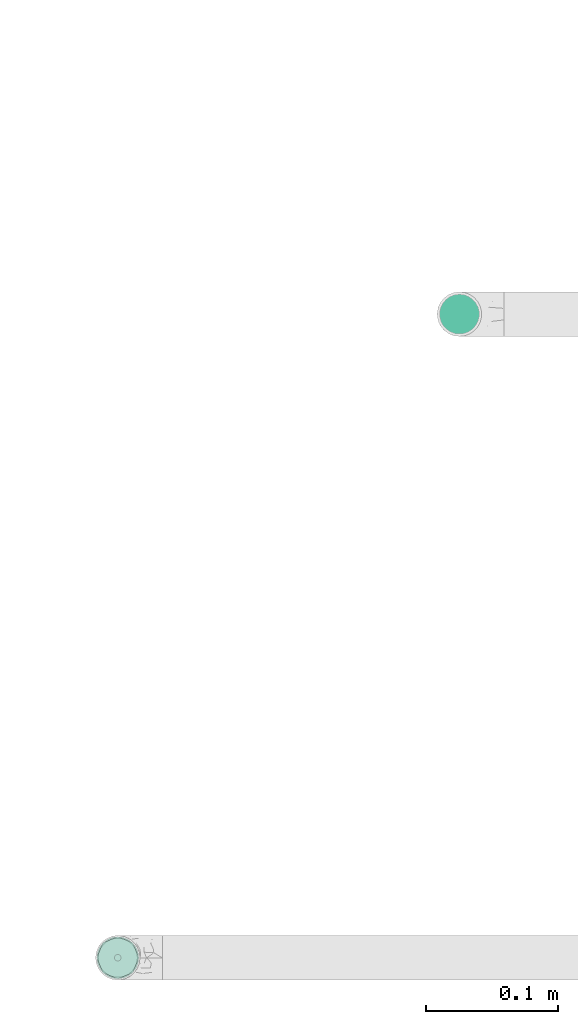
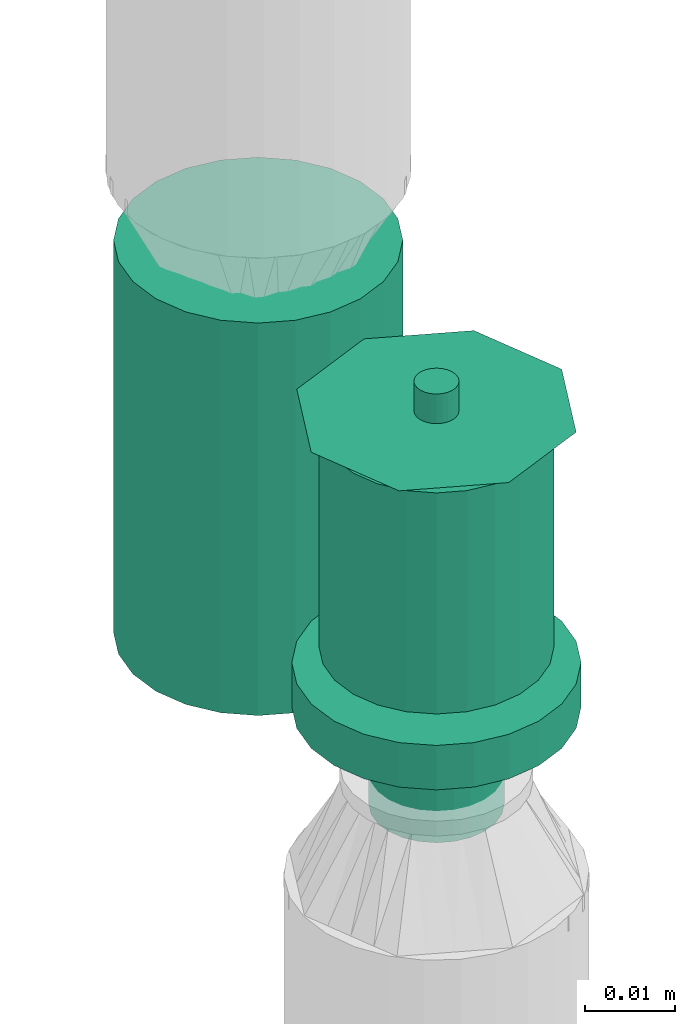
# One storey, part 26 of 157: 2 flow terminals.
"""IFC2X3 building model written with IfcOpenShell, lengths in millimetres."""

from ifc_helpers import new_model, entity, si_unit, converted_unit, derived_unit, direction, frame, origin_with_axes, place, context, subcontext, project, spatial, open_shell, surface_model, source, transform, mapped, type_object, element, save


model = new_model("IFC2X3")

# Units and contexts
model_context = context("Model", 3, precision=0.01, world=frame((0.0, 4.29681676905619e-09, 0.0)), true_north=direction((4.01073788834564e-13, 1.0)))
plan_context = context("Plan", 3, precision=0.01, world=frame((0.0, 4.29681676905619e-09, 0.0)), true_north=direction((4.01073788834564e-13, 1.0)))
body_context = subcontext(model_context, "Body", "Model", "MODEL_VIEW")
ifc_project = project(units=[converted_unit("PLANEANGLEUNIT", "DEGREE", entity("IfcPositiveLengthMeasure", 0.0174532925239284), si_unit("PLANEANGLEUNIT", "RADIAN"), dimensions=[0, 0, 0, 0, 0, 0, 0]), si_unit("AREAUNIT", "SQUARE_METRE"), si_unit("LENGTHUNIT", "METRE", prefix="MILLI"), si_unit("MASSUNIT", "GRAM", prefix="KILO"), si_unit("POWERUNIT", "WATT"), si_unit("PRESSUREUNIT", "PASCAL"), si_unit("FORCEUNIT", "NEWTON", prefix="KILO"), si_unit("ELECTRICCURRENTUNIT", "AMPERE"), si_unit("THERMODYNAMICTEMPERATUREUNIT", "DEGREE_CELSIUS"), si_unit("TIMEUNIT", "SECOND"), si_unit("VOLUMEUNIT", "CUBIC_METRE"), derived_unit("LINEARVELOCITYUNIT", [(si_unit("LENGTHUNIT", "METRE"), 1), (si_unit("TIMEUNIT", "SECOND"), -1)]), derived_unit("VOLUMETRICFLOWRATEUNIT", [(si_unit("VOLUMEUNIT", "CUBIC_METRE"), 1), (si_unit("TIMEUNIT", "SECOND"), -1)]), derived_unit("THERMALTRANSMITTANCEUNIT", [(si_unit("POWERUNIT", "WATT"), 1), (si_unit("THERMODYNAMICTEMPERATUREUNIT", "KELVIN"), -1), (si_unit("AREAUNIT", "SQUARE_METRE"), -1)])], contexts=[model_context, plan_context])

# Site, building, storey
site_placement = place(None, frame((0.0, -4.29681676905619e-09, 0.0), z_axis=(0.0, 0.0, 1.0), x_axis=(1.0, 0.0, 0.0)))
site = spatial("IfcSite", under=ifc_project, at=site_placement, CompositionType="ELEMENT")
building_placement = place(site_placement, frame((0.0, 4.29681676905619e-09, 0.0), z_axis=(0.0, 0.0, 1.0), x_axis=(1.0, 0.0, 0.0)))
building = spatial("IfcBuilding", under=site, at=building_placement, Name="mc-building", CompositionType="ELEMENT")
storey_placement = place(building_placement, frame((0.0, 0.0, 204000.0), z_axis=(0.0, 0.0, 1.0), x_axis=(1.0, 0.0, 0.0)))
storey = spatial("IfcBuildingStorey", under=building, at=storey_placement, Name="Nivå D", CompositionType="ELEMENT", Elevation=204000.0)

# Flow terminals
fire_suppression_terminal_type_1 = type_object("IfcFireSuppressionTerminalType", Name="SP-15-K80-68DGR-STD-HIMLING", PredefinedType="NOTDEFINED")
shared_shape_1 = source(origin_with_axes(), body_context, "Body", "SurfaceModel", [
    surface_model("IfcShellBasedSurfaceModel", [(4.1411, -15.45481, 53.0), (8.0, -13.85641, 53.0), (11.31371, -11.31371, 53.0), (-8.0, -13.85641, 53.0), (15.45481, -4.1411, 53.0), (16.0, 0.0, 53.0), (13.85641, -8.0, 53.0), (0.0, -16.0, 53.0), (-4.1411, -15.45481, 53.0), (-13.85641, -8.0, 53.0), (-11.31371, -11.31371, 53.0), (-15.45481, -4.1411, 53.0), (15.45481, 4.1411, 53.0), (13.85641, 8.0, 53.0), (11.31371, 11.31371, 53.0), (-4.1411, 15.45481, 53.0), (8.0, 13.85641, 53.0), (4.1411, 15.45481, 53.0), (0.0, 16.0, 53.0), (-13.85641, 8.0, 53.0), (-15.45481, 4.1411, 53.0), (-16.0, 0.0, 53.0), (-11.31371, 11.31371, 53.0), (-8.0, 13.85641, 53.0), (0.0, 16.0, 0.0), (4.1411, 15.45481, 0.0), (8.0, 13.85641, 0.0), (-4.1411, 15.45481, 0.0), (11.31371, 11.31371, 0.0), (13.85641, 8.0, 0.0), (15.45481, 4.1411, 0.0), (-15.45481, -4.1411, 0.0), (-11.31371, 11.31371, 0.0), (-8.0, 13.85641, 0.0), (-13.85641, 8.0, 0.0), (-15.45481, 4.1411, 0.0), (-16.0, 0.0, 0.0), (4.1411, -15.45481, 0.0), (16.0, 0.0, 0.0), (15.45481, -4.1411, 0.0), (13.85641, -8.0, 0.0), (11.31371, -11.31371, 0.0), (8.0, -13.85641, 0.0), (-8.0, -13.85641, 0.0), (-13.85641, -8.0, 0.0), (-11.31371, -11.31371, 0.0), (0.0, -16.0, 0.0), (-4.1411, -15.45481, 0.0)], [open_shell([[[0, 1, 2]], [[3, 0, 2]], [[4, 5, 2]], [[4, 2, 6]], [[3, 2, 5]], [[7, 3, 8]], [[7, 0, 3]], [[3, 9, 10]], [[9, 3, 11]], [[5, 11, 3]], [[5, 12, 11]], [[12, 13, 14]], [[15, 12, 14]], [[16, 17, 18]], [[14, 16, 15]], [[18, 15, 16]], [[11, 19, 20]], [[21, 11, 20]], [[22, 15, 23]], [[15, 22, 19]], [[19, 11, 15]], [[11, 12, 15]], [[24, 25, 26]], [[27, 24, 26]], [[28, 29, 30]], [[27, 26, 28]], [[27, 28, 31]], [[27, 32, 33]], [[32, 27, 34]], [[34, 31, 35]], [[31, 34, 27]], [[35, 31, 36]], [[28, 30, 31]], [[37, 38, 39]], [[37, 39, 40]], [[41, 42, 37]], [[41, 37, 40]], [[38, 37, 43]], [[44, 43, 45]], [[43, 44, 31]], [[43, 46, 47]], [[43, 31, 38]], [[37, 46, 43]], [[38, 31, 30]], [[11, 31, 44]], [[45, 9, 44]], [[3, 43, 47]], [[45, 43, 10]], [[8, 47, 46]], [[31, 21, 36]], [[31, 11, 21]], [[44, 9, 11]], [[45, 10, 9]], [[3, 10, 43]], [[47, 8, 3]], [[46, 7, 8]], [[0, 37, 42]], [[41, 1, 42]], [[6, 40, 39]], [[41, 40, 2]], [[4, 39, 38]], [[37, 0, 7]], [[42, 1, 0]], [[41, 2, 1]], [[40, 6, 2]], [[4, 6, 39]], [[38, 5, 4]], [[37, 7, 46]], [[12, 38, 30]], [[13, 30, 29]], [[16, 26, 25]], [[17, 25, 24]], [[30, 13, 12]], [[12, 5, 38]], [[28, 14, 13]], [[28, 26, 14]], [[14, 26, 16]], [[25, 17, 16]], [[28, 13, 29]], [[24, 18, 17]], [[15, 27, 33]], [[32, 23, 33]], [[19, 34, 35]], [[32, 34, 22]], [[20, 35, 36]], [[27, 15, 18]], [[33, 23, 15]], [[32, 22, 23]], [[34, 19, 22]], [[20, 19, 35]], [[36, 21, 20]], [[27, 18, 24]]])]),
])
flow_terminal_1_placement = place(storey_placement, frame((531100.0, 402200.0, 2700.0), z_axis=(0.0, 0.0, -1.0), x_axis=(1.0, 0.0, 0.0)))
element("IfcFlowTerminal", 1, at=flow_terminal_1_placement, inside=storey, type_object=fire_suppression_terminal_type_1, Name="SP-15-K80-68DGR-STD-HIMLING", context=body_context, shape_type="MappedRepresentation", body=[
    mapped(shared_shape_1, transform((0.0, 0.0, 0.0), scale=1.0)),
])
fire_suppression_terminal_type_2 = type_object("IfcFireSuppressionTerminalType", Name="68DGR-STD-STÅENDE", PredefinedType="NOTDEFINED")
shared_shape_2 = source(origin_with_axes(), body_context, "Body", "SurfaceModel", [
    surface_model("IfcShellBasedSurfaceModel", [(3.36465, -12.55704, 51.0), (6.5, -11.25833, 51.0), (9.19239, -9.19239, 51.0), (12.55704, -3.36465, 51.0), (-11.25833, -6.5, 51.0), (11.25833, -6.5, 51.0), (-13.0, 0.0, 51.0), (0.0, -13.0, 51.0), (-6.5, -11.25833, 51.0), (-3.36465, -12.55704, 51.0), (-9.19239, -9.19239, 51.0), (-12.55704, -3.36465, 51.0), (13.0, 0.0, 51.0), (12.55704, 3.36465, 51.0), (11.25833, 6.5, 51.0), (9.19239, 9.19239, 51.0), (6.5, 11.25833, 51.0), (3.36465, 12.55704, 51.0), (0.0, 13.0, 51.0), (-3.36465, 12.55704, 51.0), (-12.55704, 3.36465, 51.0), (-9.19239, 9.19239, 51.0), (-11.25833, 6.5, 51.0), (-6.5, 11.25833, 51.0), (0.0, 13.0, 21.14766), (3.36465, 12.55704, 21.14766), (6.5, 11.25833, 21.14766), (-3.36465, 12.55704, 21.14766), (9.19239, 9.19239, 21.14766), (11.25833, 6.5, 21.14766), (12.55704, 3.36465, 21.14766), (-12.55704, 3.36465, 21.14766), (-11.25833, -6.5, 21.14766), (-9.19239, 9.19239, 21.14766), (-6.5, 11.25833, 21.14766), (-11.25833, 6.5, 21.14766), (-13.0, 0.0, 21.14766), (12.55704, -3.36465, 21.14766), (9.19239, -9.19239, 21.14766), (11.25833, -6.5, 21.14766), (6.5, -11.25833, 21.14766), (3.36465, -12.55704, 21.14766), (-6.5, -11.25833, 21.14766), (-9.19239, -9.19239, 21.14766), (-12.55704, -3.36465, 21.14766), (0.0, -13.0, 21.14766), (-3.36465, -12.55704, 21.14766), (13.0, 0.0, 21.14766), (7.24444, -1.94114, 0.1), (1.94114, -7.24444, 0.1), (3.75, -6.49519, 0.1), (5.3033, -5.3033, 0.1), (-5.3033, -5.3033, 0.1), (6.49519, -3.75, 0.1), (5.3033, 5.3033, 0.1), (0.0, -7.5, 0.1), (-3.75, -6.49519, 0.1), (-1.94114, -7.24444, 0.1), (-7.24444, -1.94114, 0.1), (-6.49519, -3.75, 0.1), (-7.24444, 1.94114, 0.1), (7.5, 0.0, 0.1), (6.49519, 3.75, 0.1), (-6.49519, 3.75, 0.1), (1.94114, 7.24444, 0.1), (0.0, 7.5, 0.1), (3.75, 6.49519, 0.1), (-7.5, 0.0, 0.1), (-5.3033, 5.3033, 0.1), (-1.94114, 7.24444, 0.1), (-3.75, 6.49519, 0.1), (7.24444, 1.94114, 0.1), (1.94114, 7.24444, -0.1), (-6.49519, 3.75, -0.1), (0.0, 7.5, -0.1), (5.3033, 5.3033, -0.1), (3.75, 6.49519, -0.1), (6.49519, 3.75, -0.1), (7.24444, 1.94114, -0.1), (-1.94114, 7.24444, -0.1), (-5.3033, 5.3033, -0.1), (-3.75, 6.49519, -0.1), (-7.24444, 1.94114, -0.1), (-7.24444, -1.94114, -0.1), (-7.5, 0.0, -0.1), (7.5, 0.0, -0.1), (7.24444, -1.94114, -0.1), (-5.3033, -5.3033, -0.1), (1.94114, -7.24444, -0.1), (6.49519, -3.75, -0.1), (5.3033, -5.3033, -0.1), (3.75, -6.49519, -0.1), (-6.49519, -3.75, -0.1), (-3.75, -6.49519, -0.1), (0.0, -7.5, -0.1), (-1.94114, -7.24444, -0.1), (0.0, -2.5, 51.0), (-2.5, 0.0, 51.0), (0.0, 2.5, 51.0), (2.5, 0.0, 51.0), (0.0, -16.0, 53.0), (11.31371, -11.31371, 53.0), (-11.31371, -11.31371, 53.0), (-16.0, 0.0, 53.0), (16.0, 0.0, 53.0), (11.31371, 11.31371, 53.0), (0.0, 16.0, 53.0), (-11.31371, 11.31371, 53.0), (1.25, -2.16506, 57.0), (0.0, -2.5, 57.0), (0.64705, -2.41481, 57.0), (2.41481, -0.64705, 57.0), (1.76777, -1.76777, 57.0), (-2.41481, -0.64705, 57.0), (-2.5, 0.0, 57.0), (2.16506, -1.25, 57.0), (-1.25, -2.16506, 57.0), (-0.64705, -2.41481, 57.0), (-1.76777, -1.76777, 57.0), (-2.16506, -1.25, 57.0), (2.5, 0.0, 57.0), (2.41481, 0.64705, 57.0), (2.16506, 1.25, 57.0), (1.76777, 1.76777, 57.0), (0.64705, 2.41481, 57.0), (1.25, 2.16506, 57.0), (-1.76777, 1.76777, 57.0), (0.0, 2.5, 57.0), (-2.16506, 1.25, 57.0), (-2.41481, 0.64705, 57.0), (-0.64705, 2.41481, 57.0), (-1.25, 2.16506, 57.0), (1.25, 2.16506, 51.0), (1.76777, 1.76777, 51.0), (1.15, 1.99186, 51.0), (0.59528, 2.22163, 51.0), (0.64705, 2.41481, 51.0), (0.0, 2.3, 51.0), (1.62635, 1.62635, 51.0), (2.41481, 0.64705, 51.0), (2.3, 0.0, 51.0), (2.22163, 0.59528, 51.0), (2.16506, 1.25, 51.0), (1.99186, 1.15, 51.0), (-0.59528, 2.22163, 51.0), (-0.64705, 2.41481, 51.0), (-1.15, 1.99186, 51.0), (-1.76777, 1.76777, 51.0), (-1.25, 2.16506, 51.0), (-1.62635, 1.62635, 51.0), (-1.99186, 1.15, 51.0), (-2.16506, 1.25, 51.0), (-2.22163, 0.59528, 51.0), (-2.41481, 0.64705, 51.0), (-2.3, 0.0, 51.0), (2.41481, -0.64705, 51.0), (2.22163, -0.59528, 51.0), (1.99186, -1.15, 51.0), (2.16506, -1.25, 51.0), (1.62635, -1.62635, 51.0), (1.76777, -1.76777, 51.0), (1.25, -2.16506, 51.0), (1.15, -1.99186, 51.0), (0.59528, -2.22163, 51.0), (0.64705, -2.41481, 51.0), (0.0, -2.3, 51.0), (-2.16506, -1.25, 51.0), (-1.99186, -1.15, 51.0), (-1.76777, -1.76777, 51.0), (-1.62635, -1.62635, 51.0), (-2.41481, -0.64705, 51.0), (-2.22163, -0.59528, 51.0), (-0.59528, -2.22163, 51.0), (-0.64705, -2.41481, 51.0), (-1.15, -1.99186, 51.0), (-1.25, -2.16506, 51.0), (1.62635, -1.62635, 56.8), (1.15, -1.99186, 56.8), (0.59528, -2.22163, 56.8), (0.0, -2.3, 56.8), (2.22163, 0.59528, 56.8), (1.99186, -1.15, 56.8), (2.22163, -0.59528, 56.8), (-0.59528, -2.22163, 56.8), (-1.15, -1.99186, 56.8), (-1.62635, -1.62635, 56.8), (-1.99186, -1.15, 56.8), (-2.22163, -0.59528, 56.8), (-1.99186, 1.15, 56.8), (2.3, 0.0, 56.8), (1.62635, 1.62635, 56.8), (1.99186, 1.15, 56.8), (1.15, 1.99186, 56.8), (0.0, 2.3, 56.8), (0.59528, 2.22163, 56.8), (-2.22163, 0.59528, 56.8), (-2.3, 0.0, 56.8), (-1.15, 1.99186, 56.8), (-0.59528, 2.22163, 56.8), (-1.62635, 1.62635, 56.8), (4.1411, -15.45481, 19.0), (8.0, -13.85641, 19.0), (11.31371, -11.31371, 19.0), (-8.0, -13.85641, 19.0), (15.45481, -4.1411, 19.0), (16.0, 0.0, 19.0), (13.85641, -8.0, 19.0), (0.0, -16.0, 19.0), (-4.1411, -15.45481, 19.0), (-13.85641, -8.0, 19.0), (-11.31371, -11.31371, 19.0), (-15.45481, -4.1411, 19.0), (15.45481, 4.1411, 19.0), (13.85641, 8.0, 19.0), (11.31371, 11.31371, 19.0), (-4.1411, 15.45481, 19.0), (8.0, 13.85641, 19.0), (4.1411, 15.45481, 19.0), (0.0, 16.0, 19.0), (-13.85641, 8.0, 19.0), (-15.45481, 4.1411, 19.0), (-16.0, 0.0, 19.0), (-11.31371, 11.31371, 19.0), (-8.0, 13.85641, 19.0), (0.0, 16.0, 13.0), (4.1411, 15.45481, 13.0), (8.0, 13.85641, 13.0), (-4.1411, 15.45481, 13.0), (11.31371, 11.31371, 13.0), (13.85641, 8.0, 13.0), (15.45481, 4.1411, 13.0), (-15.45481, -4.1411, 13.0), (-11.31371, 11.31371, 13.0), (-8.0, 13.85641, 13.0), (-13.85641, 8.0, 13.0), (-15.45481, 4.1411, 13.0), (-16.0, 0.0, 13.0), (4.1411, -15.45481, 13.0), (16.0, 0.0, 13.0), (15.45481, -4.1411, 13.0), (13.85641, -8.0, 13.0), (11.31371, -11.31371, 13.0), (8.0, -13.85641, 13.0), (-8.0, -13.85641, 13.0), (-13.85641, -8.0, 13.0), (-11.31371, -11.31371, 13.0), (0.0, -16.0, 13.0), (-4.1411, -15.45481, 13.0), (7.24444, -1.94114, 13.0), (1.94114, -7.24444, 13.0), (3.75, -6.49519, 13.0), (5.3033, -5.3033, 13.0), (-5.3033, -5.3033, 13.0), (6.49519, -3.75, 13.0), (5.3033, 5.3033, 13.0), (0.0, -7.5, 13.0), (-3.75, -6.49519, 13.0), (-1.94114, -7.24444, 13.0), (-7.24444, -1.94114, 13.0), (-6.49519, -3.75, 13.0), (-7.24444, 1.94114, 13.0), (7.5, 0.0, 13.0), (6.49519, 3.75, 13.0), (-6.49519, 3.75, 13.0), (1.94114, 7.24444, 13.0), (0.0, 7.5, 13.0), (3.75, 6.49519, 13.0), (-7.5, 0.0, 13.0), (-5.3033, 5.3033, 13.0), (-1.94114, 7.24444, 13.0), (-3.75, 6.49519, 13.0), (7.24444, 1.94114, 13.0), (3.75, 6.49519, 0.0), (5.3033, 5.3033, 0.0), (3.65, 6.32199, 0.0), (1.88938, 7.05126, 0.0), (0.0, 7.3, 0.0), (1.94114, 7.24444, 0.0), (0.0, 7.5, 0.0), (5.16188, 5.16188, 0.0), (7.24444, 1.94114, 0.0), (7.3, 0.0, 0.0), (7.05126, 1.88938, 0.0), (7.5, 0.0, 0.0), (6.49519, 3.75, 0.0), (6.32199, 3.65, 0.0), (-1.88938, 7.05126, 0.0), (-1.94114, 7.24444, 0.0), (-3.65, 6.32199, 0.0), (-5.3033, 5.3033, 0.0), (-3.75, 6.49519, 0.0), (-5.16188, 5.16188, 0.0), (-6.32199, 3.65, 0.0), (-6.49519, 3.75, 0.0), (-7.05126, 1.88938, 0.0), (-7.24444, 1.94114, 0.0), (-7.3, 0.0, 0.0), (-7.5, 0.0, 0.0), (7.24444, -1.94114, 0.0), (7.05126, -1.88938, 0.0), (6.32199, -3.65, 0.0), (6.49519, -3.75, 0.0), (5.16188, -5.16188, 0.0), (5.3033, -5.3033, 0.0), (3.75, -6.49519, 0.0), (3.65, -6.32199, 0.0), (1.88938, -7.05126, 0.0), (1.94114, -7.24444, 0.0), (0.0, -7.3, 0.0), (0.0, -7.5, 0.0), (-6.49519, -3.75, 0.0), (-6.32199, -3.65, 0.0), (-5.3033, -5.3033, 0.0), (-5.16188, -5.16188, 0.0), (-7.24444, -1.94114, 0.0), (-7.05126, -1.88938, 0.0), (-1.88938, -7.05126, 0.0), (-1.94114, -7.24444, 0.0), (-3.65, -6.32199, 0.0), (-3.75, -6.49519, 0.0), (1.88938, -7.05126, 12.8), (0.0, -7.3, 12.8), (3.65, -6.32199, 12.8), (5.16188, -5.16188, 12.8), (6.32199, -3.65, 12.8), (7.05126, 1.88938, 12.8), (7.05126, -1.88938, 12.8), (-5.16188, -5.16188, 12.8), (-1.88938, -7.05126, 12.8), (-3.65, -6.32199, 12.8), (-6.32199, -3.65, 12.8), (-7.05126, -1.88938, 12.8), (0.0, 7.3, 12.8), (7.3, 0.0, 12.8), (6.32199, 3.65, 12.8), (5.16188, 5.16188, 12.8), (3.65, 6.32199, 12.8), (1.88938, 7.05126, 12.8), (-6.32199, 3.65, 12.8), (-7.05126, 1.88938, 12.8), (-7.3, 0.0, 12.8), (-3.65, 6.32199, 12.8), (-1.88938, 7.05126, 12.8), (-5.16188, 5.16188, 12.8)], [open_shell([[[0, 1, 2]], [[0, 2, 3]], [[0, 3, 4]], [[3, 2, 5]], [[6, 4, 3]], [[7, 8, 9]], [[7, 0, 8]], [[8, 4, 10]], [[0, 4, 8]], [[4, 6, 11]], [[6, 3, 12]], [[13, 14, 15]], [[6, 13, 15]], [[16, 17, 18]], [[15, 16, 19]], [[18, 19, 16]], [[20, 21, 22]], [[20, 6, 15]], [[21, 19, 23]], [[19, 21, 20]], [[15, 19, 20]], [[13, 6, 12]], [[24, 25, 26]], [[27, 24, 26]], [[28, 29, 30]], [[26, 28, 31]], [[28, 32, 31]], [[27, 33, 34]], [[33, 27, 31]], [[33, 31, 35]], [[27, 26, 31]], [[31, 32, 36]], [[32, 28, 30]], [[32, 30, 37]], [[38, 37, 39]], [[38, 40, 41]], [[38, 41, 37]], [[32, 37, 41]], [[32, 42, 43]], [[44, 36, 32]], [[42, 45, 46]], [[42, 32, 41]], [[45, 42, 41]], [[30, 47, 37]], [[4, 32, 43]], [[8, 42, 46]], [[43, 42, 10]], [[9, 46, 45]], [[36, 11, 6]], [[11, 36, 44]], [[11, 44, 4]], [[44, 32, 4]], [[43, 10, 4]], [[8, 10, 42]], [[46, 9, 8]], [[45, 7, 9]], [[0, 41, 40]], [[38, 1, 40]], [[5, 39, 37]], [[38, 39, 2]], [[3, 37, 47]], [[41, 0, 7]], [[40, 1, 0]], [[38, 2, 1]], [[39, 5, 2]], [[3, 5, 37]], [[47, 12, 3]], [[41, 7, 45]], [[30, 13, 47]], [[29, 14, 30]], [[25, 24, 17]], [[15, 29, 28]], [[30, 14, 13]], [[13, 12, 47]], [[16, 26, 17]], [[16, 15, 28]], [[26, 25, 17]], [[15, 14, 29]], [[28, 26, 16]], [[24, 18, 17]], [[19, 27, 34]], [[33, 23, 34]], [[22, 35, 31]], [[33, 35, 21]], [[20, 31, 36]], [[27, 19, 18]], [[34, 23, 19]], [[33, 21, 23]], [[35, 22, 21]], [[20, 22, 31]], [[36, 6, 20]], [[27, 18, 24]], [[48, 49, 50]], [[48, 50, 51]], [[49, 48, 52]], [[48, 51, 53]], [[54, 52, 48]], [[55, 56, 57]], [[56, 55, 52]], [[52, 58, 59]], [[52, 55, 49]], [[52, 60, 58]], [[54, 48, 61]], [[62, 54, 61]], [[54, 63, 52]], [[64, 65, 54]], [[64, 54, 66]], [[63, 54, 65]], [[63, 60, 52]], [[67, 58, 60]], [[68, 69, 70]], [[69, 68, 63]], [[69, 63, 65]], [[71, 62, 61]], [[72, 73, 74]], [[75, 72, 76]], [[75, 77, 78]], [[72, 75, 73]], [[78, 73, 75]], [[79, 80, 81]], [[80, 79, 73]], [[74, 73, 79]], [[78, 82, 73]], [[82, 83, 84]], [[82, 78, 85]], [[86, 87, 85]], [[88, 86, 89]], [[90, 91, 88]], [[90, 88, 89]], [[87, 86, 88]], [[83, 87, 92]], [[83, 85, 87]], [[93, 94, 95]], [[94, 93, 87]], [[88, 94, 87]], [[85, 83, 82]], [[83, 58, 84]], [[92, 59, 83]], [[56, 87, 93]], [[92, 87, 52]], [[57, 93, 95]], [[83, 59, 58]], [[58, 67, 84]], [[57, 56, 93]], [[52, 87, 56]], [[52, 59, 92]], [[55, 57, 95]], [[95, 94, 55]], [[88, 49, 94]], [[91, 50, 88]], [[53, 90, 89]], [[91, 90, 51]], [[48, 89, 86]], [[91, 51, 50]], [[50, 49, 88]], [[61, 48, 86]], [[53, 89, 48]], [[53, 51, 90]], [[85, 61, 86]], [[94, 49, 55]], [[78, 71, 85]], [[77, 62, 78]], [[66, 75, 76]], [[77, 75, 54]], [[64, 76, 72]], [[78, 62, 71]], [[71, 61, 85]], [[64, 66, 76]], [[54, 75, 66]], [[54, 62, 77]], [[65, 64, 72]], [[72, 74, 65]], [[79, 69, 74]], [[81, 70, 79]], [[63, 80, 73]], [[81, 80, 68]], [[60, 73, 82]], [[81, 68, 70]], [[70, 69, 79]], [[67, 60, 82]], [[63, 73, 60]], [[63, 68, 80]], [[84, 67, 82]], [[74, 69, 65]], [[96, 97, 98]], [[98, 99, 96]], [[100, 101, 102]], [[103, 102, 101]], [[101, 104, 103]], [[104, 105, 106]], [[107, 103, 106]], [[106, 103, 104]], [[99, 98, 105]], [[105, 104, 99]], [[98, 106, 105]], [[98, 107, 106]], [[107, 98, 97]], [[103, 107, 97]], [[97, 96, 102]], [[102, 103, 97]], [[96, 100, 102]], [[96, 101, 100]], [[101, 96, 99]], [[104, 101, 99]], [[108, 109, 110]], [[111, 108, 112]], [[113, 108, 114]], [[111, 112, 115]], [[108, 111, 114]], [[109, 116, 117]], [[116, 109, 118]], [[118, 113, 119]], [[118, 109, 108]], [[108, 113, 118]], [[111, 120, 114]], [[121, 122, 123]], [[114, 121, 123]], [[114, 123, 124]], [[124, 123, 125]], [[126, 124, 127]], [[124, 128, 129]], [[129, 114, 124]], [[126, 130, 131]], [[128, 124, 126]], [[130, 126, 127]], [[121, 114, 120]], [[132, 133, 134]], [[132, 134, 135]], [[136, 135, 137]], [[135, 136, 132]], [[136, 137, 98]], [[134, 133, 138]], [[139, 140, 141]], [[140, 139, 99]], [[139, 141, 142]], [[138, 142, 143]], [[142, 138, 133]], [[143, 142, 141]], [[98, 144, 145]], [[98, 137, 144]], [[145, 144, 146]], [[147, 148, 149]], [[146, 148, 145]], [[149, 148, 146]], [[150, 151, 147]], [[151, 150, 152]], [[150, 147, 149]], [[153, 152, 154]], [[152, 153, 151]], [[153, 154, 97]], [[99, 155, 156]], [[156, 155, 157]], [[157, 158, 159]], [[158, 157, 155]], [[159, 158, 160]], [[160, 161, 162]], [[162, 161, 163]], [[163, 164, 165]], [[164, 163, 161]], [[165, 164, 96]], [[162, 159, 160]], [[166, 167, 168]], [[168, 167, 169]], [[167, 166, 170]], [[97, 171, 170]], [[170, 171, 167]], [[97, 154, 171]], [[172, 96, 173]], [[172, 173, 174]], [[169, 175, 168]], [[175, 169, 174]], [[175, 174, 173]], [[165, 96, 172]], [[156, 140, 99]], [[170, 113, 97]], [[166, 119, 170]], [[116, 168, 175]], [[166, 168, 118]], [[117, 175, 173]], [[170, 119, 113]], [[113, 114, 97]], [[117, 116, 175]], [[118, 168, 116]], [[118, 119, 166]], [[109, 117, 173]], [[173, 96, 109]], [[164, 110, 96]], [[161, 108, 164]], [[115, 160, 158]], [[161, 160, 112]], [[111, 158, 155]], [[161, 112, 108]], [[108, 110, 164]], [[120, 111, 155]], [[115, 158, 111]], [[115, 112, 160]], [[99, 120, 155]], [[96, 110, 109]], [[139, 121, 99]], [[142, 122, 139]], [[125, 133, 132]], [[142, 133, 123]], [[124, 132, 136]], [[139, 122, 121]], [[121, 120, 99]], [[124, 125, 132]], [[123, 133, 125]], [[123, 122, 142]], [[127, 124, 136]], [[136, 98, 127]], [[145, 130, 98]], [[148, 131, 145]], [[128, 147, 151]], [[148, 147, 126]], [[129, 151, 153]], [[148, 126, 131]], [[131, 130, 145]], [[114, 129, 153]], [[128, 151, 129]], [[128, 126, 147]], [[97, 114, 153]], [[98, 130, 127]], [[176, 177, 178]], [[176, 178, 179]], [[180, 176, 179]], [[181, 176, 182]], [[180, 182, 176]], [[183, 184, 179]], [[185, 179, 184]], [[186, 187, 185]], [[185, 187, 188]], [[179, 185, 188]], [[189, 182, 180]], [[190, 191, 180]], [[192, 190, 180]], [[193, 194, 192]], [[180, 193, 192]], [[188, 193, 180]], [[195, 188, 196]], [[196, 188, 187]], [[197, 198, 199]], [[188, 199, 198]], [[188, 198, 193]], [[180, 179, 188]], [[154, 187, 171]], [[171, 186, 167]], [[174, 169, 184]], [[185, 169, 167]], [[172, 174, 183]], [[187, 186, 171]], [[154, 196, 187]], [[174, 184, 183]], [[184, 169, 185]], [[167, 186, 185]], [[172, 183, 179]], [[179, 165, 172]], [[165, 178, 163]], [[163, 177, 162]], [[157, 159, 181]], [[176, 159, 162]], [[156, 157, 182]], [[177, 176, 162]], [[163, 178, 177]], [[156, 182, 189]], [[182, 157, 181]], [[159, 176, 181]], [[156, 189, 140]], [[179, 178, 165]], [[140, 180, 141]], [[141, 191, 143]], [[134, 138, 192]], [[190, 138, 143]], [[135, 134, 194]], [[180, 191, 141]], [[140, 189, 180]], [[134, 192, 194]], [[192, 138, 190]], [[143, 191, 190]], [[135, 194, 193]], [[193, 137, 135]], [[137, 198, 144]], [[144, 197, 146]], [[150, 149, 188]], [[199, 149, 146]], [[152, 150, 195]], [[197, 199, 146]], [[144, 198, 197]], [[152, 195, 196]], [[195, 150, 188]], [[149, 199, 188]], [[152, 196, 154]], [[193, 198, 137]], [[200, 201, 202]], [[203, 200, 202]], [[204, 205, 202]], [[204, 202, 206]], [[203, 202, 205]], [[207, 203, 208]], [[207, 200, 203]], [[203, 209, 210]], [[209, 203, 211]], [[205, 211, 203]], [[205, 212, 211]], [[212, 213, 214]], [[215, 212, 214]], [[216, 217, 218]], [[214, 216, 215]], [[218, 215, 216]], [[211, 219, 220]], [[221, 211, 220]], [[222, 215, 223]], [[215, 222, 219]], [[219, 211, 215]], [[211, 212, 215]], [[224, 225, 226]], [[227, 224, 226]], [[228, 229, 230]], [[227, 226, 228]], [[227, 228, 231]], [[227, 232, 233]], [[232, 227, 234]], [[234, 231, 235]], [[231, 234, 227]], [[235, 231, 236]], [[228, 230, 231]], [[237, 238, 239]], [[237, 239, 240]], [[241, 242, 237]], [[241, 237, 240]], [[238, 237, 243]], [[244, 243, 245]], [[243, 244, 231]], [[243, 246, 247]], [[243, 231, 238]], [[237, 246, 243]], [[238, 231, 230]], [[231, 211, 236]], [[244, 209, 231]], [[203, 245, 243]], [[244, 245, 210]], [[208, 243, 247]], [[231, 209, 211]], [[211, 221, 236]], [[208, 203, 243]], [[210, 245, 203]], [[210, 209, 244]], [[207, 208, 247]], [[247, 246, 207]], [[237, 200, 246]], [[242, 201, 237]], [[206, 241, 240]], [[242, 241, 202]], [[204, 240, 239]], [[242, 202, 201]], [[201, 200, 237]], [[205, 204, 239]], [[206, 240, 204]], [[206, 202, 241]], [[238, 205, 239]], [[246, 200, 207]], [[230, 212, 238]], [[229, 213, 230]], [[216, 228, 226]], [[229, 228, 214]], [[217, 226, 225]], [[230, 213, 212]], [[212, 205, 238]], [[217, 216, 226]], [[214, 228, 216]], [[214, 213, 229]], [[218, 217, 225]], [[225, 224, 218]], [[227, 215, 224]], [[233, 223, 227]], [[219, 232, 234]], [[233, 232, 222]], [[220, 234, 235]], [[233, 222, 223]], [[223, 215, 227]], [[221, 220, 235]], [[219, 234, 220]], [[219, 222, 232]], [[236, 221, 235]], [[224, 215, 218]], [[248, 249, 250]], [[248, 250, 251]], [[249, 248, 252]], [[248, 251, 253]], [[254, 252, 248]], [[255, 256, 257]], [[256, 255, 252]], [[252, 258, 259]], [[252, 255, 249]], [[252, 260, 258]], [[254, 248, 261]], [[262, 254, 261]], [[254, 263, 252]], [[264, 265, 254]], [[264, 254, 266]], [[263, 254, 265]], [[263, 260, 252]], [[267, 258, 260]], [[268, 269, 270]], [[269, 268, 263]], [[269, 263, 265]], [[271, 262, 261]], [[272, 273, 274]], [[272, 274, 275]], [[276, 277, 275]], [[277, 276, 278]], [[275, 277, 272]], [[274, 273, 279]], [[280, 281, 282]], [[281, 280, 283]], [[280, 282, 284]], [[279, 284, 285]], [[284, 279, 273]], [[285, 284, 282]], [[278, 286, 287]], [[287, 286, 288]], [[289, 290, 291]], [[288, 290, 287]], [[288, 291, 290]], [[278, 276, 286]], [[292, 293, 289]], [[293, 292, 294]], [[292, 289, 291]], [[295, 294, 296]], [[294, 295, 293]], [[295, 296, 297]], [[283, 298, 299]], [[299, 298, 300]], [[300, 301, 302]], [[301, 300, 298]], [[302, 301, 303]], [[303, 304, 305]], [[305, 304, 306]], [[306, 307, 308]], [[307, 306, 304]], [[308, 307, 309]], [[305, 302, 303]], [[310, 311, 312]], [[312, 311, 313]], [[311, 310, 314]], [[297, 315, 314]], [[314, 315, 311]], [[297, 296, 315]], [[316, 309, 317]], [[316, 317, 318]], [[313, 319, 312]], [[313, 318, 319]], [[319, 318, 317]], [[308, 309, 316]], [[299, 281, 283]], [[314, 258, 297]], [[310, 259, 314]], [[256, 312, 319]], [[310, 312, 252]], [[257, 319, 317]], [[314, 259, 258]], [[258, 267, 297]], [[257, 256, 319]], [[252, 312, 256]], [[252, 259, 310]], [[255, 257, 317]], [[317, 309, 255]], [[307, 249, 309]], [[304, 250, 307]], [[253, 303, 301]], [[304, 303, 251]], [[248, 301, 298]], [[304, 251, 250]], [[250, 249, 307]], [[261, 248, 298]], [[253, 301, 248]], [[253, 251, 303]], [[283, 261, 298]], [[309, 249, 255]], [[280, 271, 283]], [[284, 262, 280]], [[266, 273, 272]], [[284, 273, 254]], [[264, 272, 277]], [[280, 262, 271]], [[271, 261, 283]], [[264, 266, 272]], [[254, 273, 266]], [[254, 262, 284]], [[265, 264, 277]], [[277, 278, 265]], [[287, 269, 278]], [[290, 270, 287]], [[263, 289, 293]], [[290, 289, 268]], [[260, 293, 295]], [[290, 268, 270]], [[270, 269, 287]], [[267, 260, 295]], [[263, 293, 260]], [[263, 268, 289]], [[297, 267, 295]], [[278, 269, 265]], [[320, 321, 322]], [[323, 322, 324]], [[325, 326, 322]], [[324, 322, 326]], [[322, 327, 325]], [[328, 329, 321]], [[327, 321, 329]], [[330, 331, 327]], [[322, 321, 327]], [[331, 332, 327]], [[326, 325, 333]], [[334, 325, 332]], [[335, 334, 336]], [[332, 337, 336]], [[334, 332, 336]], [[331, 338, 332]], [[339, 338, 340]], [[340, 338, 331]], [[341, 342, 343]], [[332, 338, 343]], [[332, 343, 342]], [[332, 325, 327]], [[296, 331, 315]], [[315, 330, 311]], [[318, 313, 329]], [[327, 313, 311]], [[316, 318, 328]], [[331, 330, 315]], [[296, 340, 331]], [[318, 329, 328]], [[329, 313, 327]], [[311, 330, 327]], [[316, 328, 321]], [[321, 308, 316]], [[308, 320, 306]], [[306, 322, 305]], [[300, 302, 324]], [[323, 302, 305]], [[299, 300, 326]], [[322, 323, 305]], [[306, 320, 322]], [[299, 326, 333]], [[326, 300, 324]], [[302, 323, 324]], [[299, 333, 281]], [[321, 320, 308]], [[281, 325, 282]], [[282, 334, 285]], [[274, 279, 336]], [[335, 279, 285]], [[275, 274, 337]], [[325, 334, 282]], [[281, 333, 325]], [[274, 336, 337]], [[336, 279, 335]], [[285, 334, 335]], [[275, 337, 332]], [[332, 276, 275]], [[276, 342, 286]], [[286, 341, 288]], [[292, 291, 338]], [[343, 291, 288]], [[294, 292, 339]], [[341, 343, 288]], [[286, 342, 341]], [[294, 339, 340]], [[339, 292, 338]], [[291, 343, 338]], [[294, 340, 296]], [[332, 342, 276]]])]),
])
flow_terminal_2_placement = place(storey_placement, frame((530840.35, 401710.8343, 3011.5), z_axis=(0.0, 0.0, 1.0), x_axis=(1.0, 0.0, 0.0)))
element("IfcFlowTerminal", 2, at=flow_terminal_2_placement, inside=storey, type_object=fire_suppression_terminal_type_2, Name="68DGR-STD-STÅENDE", context=body_context, shape_type="MappedRepresentation", body=[
    mapped(shared_shape_2, transform((0.0, 0.0, 0.0), scale=1.0)),
])

save(model, "model.ifc")
